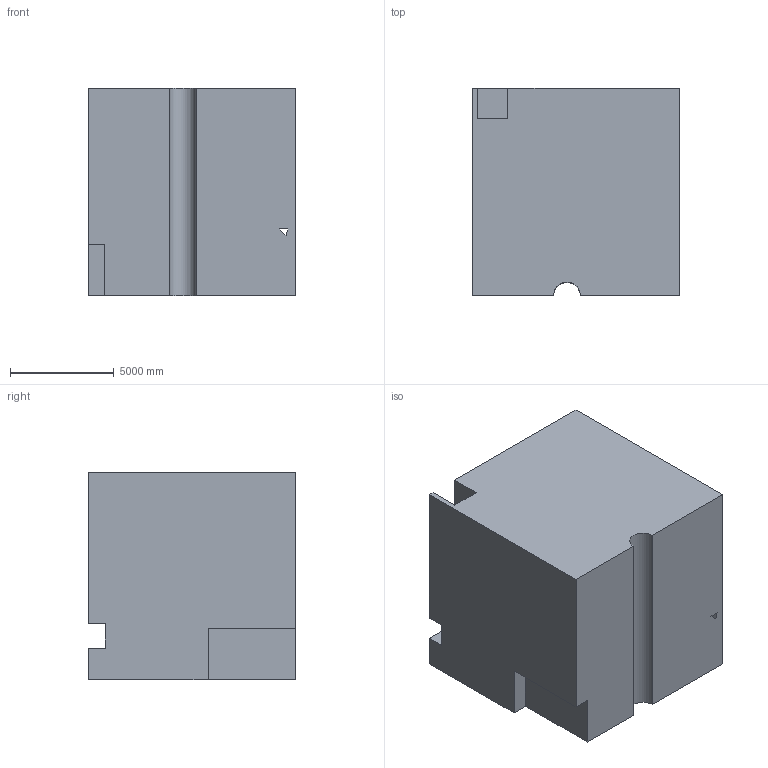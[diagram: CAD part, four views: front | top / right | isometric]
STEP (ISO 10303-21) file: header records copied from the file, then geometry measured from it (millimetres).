
FILE_DESCRIPTION (( 'STEP AP203' ), '1' );
FILE_NAME ('47.STEP', '2022-09-01T11:45:46', ( 'user' ), ( '' ), 'SwSTEP 2.0', 'SolidWorks 2021', '' );
FILE_SCHEMA (( 'CONFIG_CONTROL_DESIGN' ));
Length unit declared in the file: centimetre
Products named in the file (1): 47
Bounding box: 10000 x 10000 x 10000 mm (x, y, z)
Volume: 971807535937.4 mm3; surface area: 636864094.4 mm2
Topology: 1 solids, 1 shells, 22 faces, 60 edges, 40 vertices
Faces by surface type: plane 21, cylinder 1
Entity records: 767 total; most frequent: CARTESIAN_POINT 123, ORIENTED_EDGE 120, DIRECTION 108, EDGE_CURVE 60, LINE 58, VECTOR 58, VERTEX_POINT 40, AXIS2_PLACEMENT_3D 25
